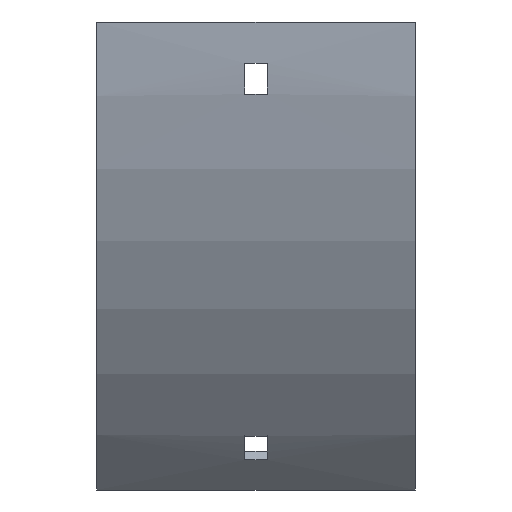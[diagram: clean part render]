
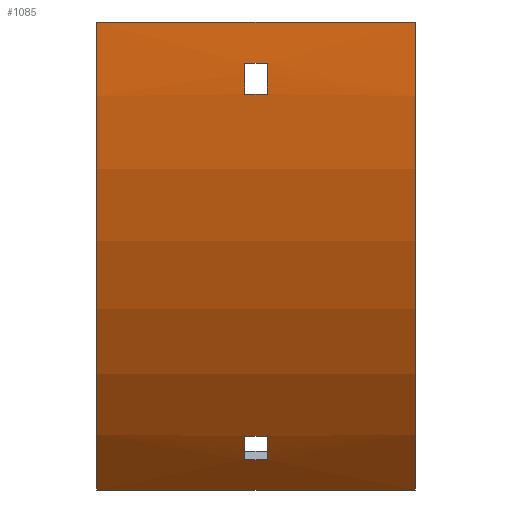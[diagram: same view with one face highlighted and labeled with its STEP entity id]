
A CAD part, front view. The second image highlights one B-rep face of the part: STEP entity #1085.
In plain terms, the highlighted cylindrical face has radius 192.5 mm (diameter 385 mm), a partial arc.
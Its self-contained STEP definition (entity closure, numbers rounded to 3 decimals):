
#28 = CARTESIAN_POINT ( 'NONE',  ( -3.25, 100., 0. ) ) ;
#33 = DIRECTION ( 'NONE',  ( 1., 0., 0. ) ) ;
#47 = CARTESIAN_POINT ( 'NONE',  ( -46.25, -92.5, 0. ) ) ;
#101 = ORIENTED_EDGE ( 'NONE', *, *, #1148, .F. ) ;
#107 = DIRECTION ( 'NONE',  ( 0., 0., -1. ) ) ;
#113 = AXIS2_PLACEMENT_3D ( 'NONE', #272, #294, #571 ) ;
#150 = EDGE_CURVE ( 'NONE', #866, #1511, #1335, .T. ) ;
#157 = ORIENTED_EDGE ( 'NONE', *, *, #1069, .T. ) ;
#162 = CARTESIAN_POINT ( 'NONE',  ( 46.25, -92.126, -12. ) ) ;
#167 = FACE_OUTER_BOUND ( 'NONE', #1495, .T. ) ;
#169 = AXIS2_PLACEMENT_3D ( 'NONE', #694, #702, #1594 ) ;
#241 = CARTESIAN_POINT ( 'NONE',  ( -3.25, 100., 0. ) ) ;
#272 = CARTESIAN_POINT ( 'NONE',  ( 3.25, 100., 0. ) ) ;
#288 = VERTEX_POINT ( 'NONE', #1081 ) ;
#294 = DIRECTION ( 'NONE',  ( -1., 0., 0. ) ) ;
#300 = DIRECTION ( 'NONE',  ( 1., 0., 0. ) ) ;
#313 = VERTEX_POINT ( 'NONE', #943 ) ;
#319 = VERTEX_POINT ( 'NONE', #1466 ) ;
#324 = EDGE_LOOP ( 'NONE', ( #364, #873, #1429, #1189 ) ) ;
#329 = EDGE_CURVE ( 'NONE', #1255, #981, #1098, .T. ) ;
#335 = VECTOR ( 'NONE', #1664, 1000. ) ;
#336 = EDGE_CURVE ( 'NONE', #1510, #528, #1378, .T. ) ;
#342 = ORIENTED_EDGE ( 'NONE', *, *, #725, .F. ) ;
#350 = CARTESIAN_POINT ( 'NONE',  ( 46.25, -92.5, 0. ) ) ;
#353 = ORIENTED_EDGE ( 'NONE', *, *, #687, .T. ) ;
#355 = VECTOR ( 'NONE', #563, 1000. ) ;
#364 = ORIENTED_EDGE ( 'NONE', *, *, #1331, .F. ) ;
#367 = AXIS2_PLACEMENT_3D ( 'NONE', #241, #769, #1496 ) ;
#396 = CIRCLE ( 'NONE', #367, 192.5 ) ;
#423 = CARTESIAN_POINT ( 'NONE',  ( 46.25, 100., 0. ) ) ;
#469 = CARTESIAN_POINT ( 'NONE',  ( 46.25, -50.155, -120.456 ) ) ;
#475 = CARTESIAN_POINT ( 'NONE',  ( -3.25, -44.339, -127.368 ) ) ;
#501 = CARTESIAN_POINT ( 'NONE',  ( 3.25, -44.339, -127.368 ) ) ;
#518 = DIRECTION ( 'NONE',  ( 1., 0., 0. ) ) ;
#528 = VERTEX_POINT ( 'NONE', #1014 ) ;
#533 = CARTESIAN_POINT ( 'NONE',  ( 46.25, -44.339, -127.368 ) ) ;
#539 = DIRECTION ( 'NONE',  ( 1., 0., 0. ) ) ;
#541 = EDGE_LOOP ( 'NONE', ( #353, #157, #1471, #1010 ) ) ;
#554 = CARTESIAN_POINT ( 'NONE',  ( 3.25, 100., 0. ) ) ;
#563 = DIRECTION ( 'NONE',  ( -1., 0., 0. ) ) ;
#571 = DIRECTION ( 'NONE',  ( 0., 0., 1. ) ) ;
#598 = DIRECTION ( 'NONE',  ( -1., 0., 0. ) ) ;
#612 = VECTOR ( 'NONE', #598, 1000. ) ;
#666 = DIRECTION ( 'NONE',  ( 0., 0., -1. ) ) ;
#687 = EDGE_CURVE ( 'NONE', #528, #319, #834, .T. ) ;
#694 = CARTESIAN_POINT ( 'NONE',  ( 46.25, 100., 0. ) ) ;
#702 = DIRECTION ( 'NONE',  ( -1., 0., 0. ) ) ;
#710 = VECTOR ( 'NONE', #300, 1000. ) ;
#716 = EDGE_CURVE ( 'NONE', #1439, #1510, #1316, .T. ) ;
#725 = EDGE_CURVE ( 'NONE', #767, #313, #1579, .T. ) ;
#729 = LINE ( 'NONE', #469, #893 ) ;
#767 = VERTEX_POINT ( 'NONE', #992 ) ;
#769 = DIRECTION ( 'NONE',  ( 1., 0., 0. ) ) ;
#803 = VERTEX_POINT ( 'NONE', #475 ) ;
#832 = FACE_BOUND ( 'NONE', #541, .T. ) ;
#834 = LINE ( 'NONE', #1465, #355 ) ;
#862 = CARTESIAN_POINT ( 'NONE',  ( -46.25, -36.118, -136.118 ) ) ;
#866 = VERTEX_POINT ( 'NONE', #47 ) ;
#873 = ORIENTED_EDGE ( 'NONE', *, *, #1472, .F. ) ;
#893 = VECTOR ( 'NONE', #1638, 1000. ) ;
#897 = AXIS2_PLACEMENT_3D ( 'NONE', #1038, #518, #107 ) ;
#898 = AXIS2_PLACEMENT_3D ( 'NONE', #554, #1482, #666 ) ;
#901 = LINE ( 'NONE', #350, #612 ) ;
#925 = DIRECTION ( 'NONE',  ( 0., 0., -1. ) ) ;
#926 = ORIENTED_EDGE ( 'NONE', *, *, #150, .T. ) ;
#943 = CARTESIAN_POINT ( 'NONE',  ( 46.25, -36.118, -136.118 ) ) ;
#946 = FACE_BOUND ( 'NONE', #324, .T. ) ;
#972 = DIRECTION ( 'NONE',  ( -1., 0., 0. ) ) ;
#981 = VERTEX_POINT ( 'NONE', #1035 ) ;
#992 = CARTESIAN_POINT ( 'NONE',  ( 46.25, -92.5, 0. ) ) ;
#996 = LINE ( 'NONE', #1007, #335 ) ;
#1007 = CARTESIAN_POINT ( 'NONE',  ( 46.25, -36.118, -136.118 ) ) ;
#1010 = ORIENTED_EDGE ( 'NONE', *, *, #336, .T. ) ;
#1014 = CARTESIAN_POINT ( 'NONE',  ( 3.25, -91.351, -21. ) ) ;
#1035 = CARTESIAN_POINT ( 'NONE',  ( 3.25, -50.155, -120.456 ) ) ;
#1038 = CARTESIAN_POINT ( 'NONE',  ( -46.25, 100., 0. ) ) ;
#1069 = EDGE_CURVE ( 'NONE', #319, #1439, #1672, .T. ) ;
#1081 = CARTESIAN_POINT ( 'NONE',  ( -3.25, -50.155, -120.456 ) ) ;
#1083 = CYLINDRICAL_SURFACE ( 'NONE', #169, 192.5 ) ;
#1085 = ADVANCED_FACE ( 'NONE', ( #167, #832, #946 ), #1083, .T. ) ;
#1098 = CIRCLE ( 'NONE', #113, 192.5 ) ;
#1148 = EDGE_CURVE ( 'NONE', #313, #1511, #996, .T. ) ;
#1189 = ORIENTED_EDGE ( 'NONE', *, *, #1592, .F. ) ;
#1190 = AXIS2_PLACEMENT_3D ( 'NONE', #28, #972, #1198 ) ;
#1198 = DIRECTION ( 'NONE',  ( 0., 0., 1. ) ) ;
#1255 = VERTEX_POINT ( 'NONE', #501 ) ;
#1316 = LINE ( 'NONE', #162, #710 ) ;
#1331 = EDGE_CURVE ( 'NONE', #288, #803, #396, .T. ) ;
#1335 = CIRCLE ( 'NONE', #897, 192.5 ) ;
#1378 = CIRCLE ( 'NONE', #898, 192.5 ) ;
#1421 = CARTESIAN_POINT ( 'NONE',  ( 3.25, -92.126, -12. ) ) ;
#1429 = ORIENTED_EDGE ( 'NONE', *, *, #329, .F. ) ;
#1439 = VERTEX_POINT ( 'NONE', #1596 ) ;
#1440 = VECTOR ( 'NONE', #539, 1000. ) ;
#1465 = CARTESIAN_POINT ( 'NONE',  ( 46.25, -91.351, -21. ) ) ;
#1466 = CARTESIAN_POINT ( 'NONE',  ( -3.25, -91.351, -21. ) ) ;
#1471 = ORIENTED_EDGE ( 'NONE', *, *, #716, .T. ) ;
#1472 = EDGE_CURVE ( 'NONE', #981, #288, #729, .T. ) ;
#1482 = DIRECTION ( 'NONE',  ( 1., 0., 0. ) ) ;
#1495 = EDGE_LOOP ( 'NONE', ( #926, #101, #342, #1639 ) ) ;
#1496 = DIRECTION ( 'NONE',  ( 0., 0., -1. ) ) ;
#1510 = VERTEX_POINT ( 'NONE', #1421 ) ;
#1511 = VERTEX_POINT ( 'NONE', #862 ) ;
#1531 = EDGE_CURVE ( 'NONE', #767, #866, #901, .T. ) ;
#1552 = LINE ( 'NONE', #533, #1440 ) ;
#1579 = CIRCLE ( 'NONE', #1661, 192.5 ) ;
#1592 = EDGE_CURVE ( 'NONE', #803, #1255, #1552, .T. ) ;
#1594 = DIRECTION ( 'NONE',  ( 0., 0., 1. ) ) ;
#1596 = CARTESIAN_POINT ( 'NONE',  ( -3.25, -92.126, -12. ) ) ;
#1638 = DIRECTION ( 'NONE',  ( -1., 0., 0. ) ) ;
#1639 = ORIENTED_EDGE ( 'NONE', *, *, #1531, .T. ) ;
#1661 = AXIS2_PLACEMENT_3D ( 'NONE', #423, #33, #925 ) ;
#1664 = DIRECTION ( 'NONE',  ( -1., 0., 0. ) ) ;
#1672 = CIRCLE ( 'NONE', #1190, 192.5 ) ;
